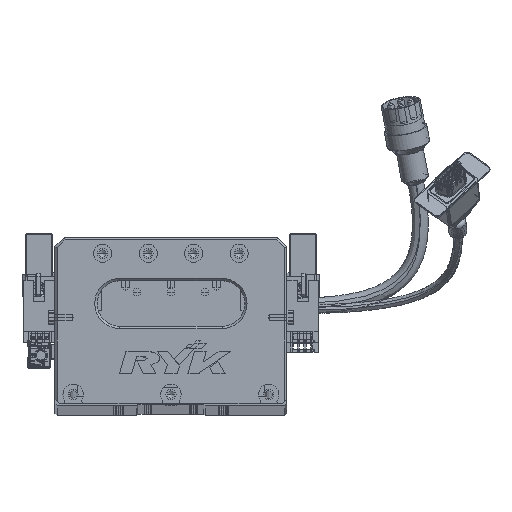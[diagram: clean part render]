
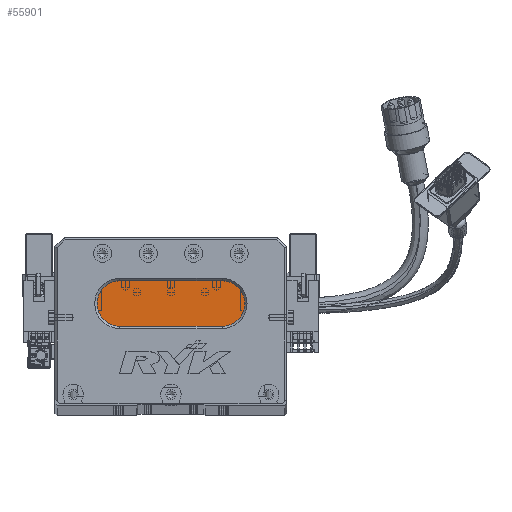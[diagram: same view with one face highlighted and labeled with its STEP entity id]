
A CAD part, top view. The second image highlights one B-rep face of the part: STEP entity #55901.
In plain terms, the highlighted planar face has unit normal (0, 0, 1) as drawn and (0, 0, -1) by its records, which use the part's own axes.
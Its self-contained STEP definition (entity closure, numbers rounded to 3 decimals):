
#3638 = AXIS2_PLACEMENT_3D ( 'NONE', #4388, #37500, #17196 ) ;
#4388 = CARTESIAN_POINT ( 'NONE',  ( 73.5, 44., 13. ) ) ;
#5705 = FACE_OUTER_BOUND ( 'NONE', #58389, .T. ) ;
#6305 = VERTEX_POINT ( 'NONE', #21095 ) ;
#10937 = CIRCLE ( 'NONE', #36860, 10. ) ;
#11815 = CARTESIAN_POINT ( 'NONE',  ( 73.5, 54., 13. ) ) ;
#17196 = DIRECTION ( 'NONE',  ( -1., 0., 0. ) ) ;
#19391 = VERTEX_POINT ( 'NONE', #85519 ) ;
#19557 = ORIENTED_EDGE ( 'NONE', *, *, #28901, .T. ) ;
#20996 = EDGE_CURVE ( 'NONE', #22656, #76422, #60121, .T. ) ;
#21095 = CARTESIAN_POINT ( 'NONE',  ( 28.5, 54., 13. ) ) ;
#21952 = DIRECTION ( 'NONE',  ( -1., 0., 0. ) ) ;
#22656 = VERTEX_POINT ( 'NONE', #41810 ) ;
#27851 = VERTEX_POINT ( 'NONE', #11815 ) ;
#28110 = DIRECTION ( 'NONE',  ( -1., 0., 0. ) ) ;
#28469 = ORIENTED_EDGE ( 'NONE', *, *, #35463, .T. ) ;
#28901 = EDGE_CURVE ( 'NONE', #6305, #27851, #58994, .T. ) ;
#30915 = DIRECTION ( 'NONE',  ( -1., 0., 0. ) ) ;
#32964 = EDGE_CURVE ( 'NONE', #19391, #22656, #52741, .T. ) ;
#33121 = VECTOR ( 'NONE', #71475, 1000. ) ;
#33646 = CARTESIAN_POINT ( 'NONE',  ( 73.5, 44., 13. ) ) ;
#35463 = EDGE_CURVE ( 'NONE', #27851, #19391, #10937, .T. ) ;
#35891 = CARTESIAN_POINT ( 'NONE',  ( 28.5, 44., 13. ) ) ;
#36351 = DIRECTION ( 'NONE',  ( -1., 0., 0. ) ) ;
#36536 = ORIENTED_EDGE ( 'NONE', *, *, #32964, .T. ) ;
#36645 = CARTESIAN_POINT ( 'NONE',  ( 73.5, 34., 13. ) ) ;
#36860 = AXIS2_PLACEMENT_3D ( 'NONE', #33646, #48111, #28110 ) ;
#37317 = CIRCLE ( 'NONE', #45199, 10. ) ;
#37500 = DIRECTION ( 'NONE',  ( 0., 0., -1. ) ) ;
#41428 = ORIENTED_EDGE ( 'NONE', *, *, #62746, .T. ) ;
#41810 = CARTESIAN_POINT ( 'NONE',  ( 28.5, 34., 13. ) ) ;
#45199 = AXIS2_PLACEMENT_3D ( 'NONE', #35891, #61625, #21952 ) ;
#48111 = DIRECTION ( 'NONE',  ( 0., 0., -1. ) ) ;
#52378 = CARTESIAN_POINT ( 'NONE',  ( 73.5, 54., 13. ) ) ;
#52741 = LINE ( 'NONE', #36645, #81719 ) ;
#55901 = ADVANCED_FACE ( 'NONE', ( #5705 ), #56558, .T. ) ;
#56558 = PLANE ( 'NONE',  #3638 ) ;
#57217 = DIRECTION ( 'NONE',  ( 0., 0., -1. ) ) ;
#58389 = EDGE_LOOP ( 'NONE', ( #28469, #36536, #66285, #41428, #19557 ) ) ;
#58994 = LINE ( 'NONE', #52378, #33121 ) ;
#60121 = CIRCLE ( 'NONE', #81441, 10. ) ;
#61625 = DIRECTION ( 'NONE',  ( 0., 0., -1. ) ) ;
#62746 = EDGE_CURVE ( 'NONE', #76422, #6305, #37317, .T. ) ;
#66285 = ORIENTED_EDGE ( 'NONE', *, *, #20996, .T. ) ;
#67069 = CARTESIAN_POINT ( 'NONE',  ( 18.5, 44., 13. ) ) ;
#71475 = DIRECTION ( 'NONE',  ( 1., 0., 0. ) ) ;
#76422 = VERTEX_POINT ( 'NONE', #67069 ) ;
#77726 = CARTESIAN_POINT ( 'NONE',  ( 28.5, 44., 13. ) ) ;
#81441 = AXIS2_PLACEMENT_3D ( 'NONE', #77726, #57217, #30915 ) ;
#81719 = VECTOR ( 'NONE', #36351, 1000. ) ;
#85519 = CARTESIAN_POINT ( 'NONE',  ( 73.5, 34., 13. ) ) ;
